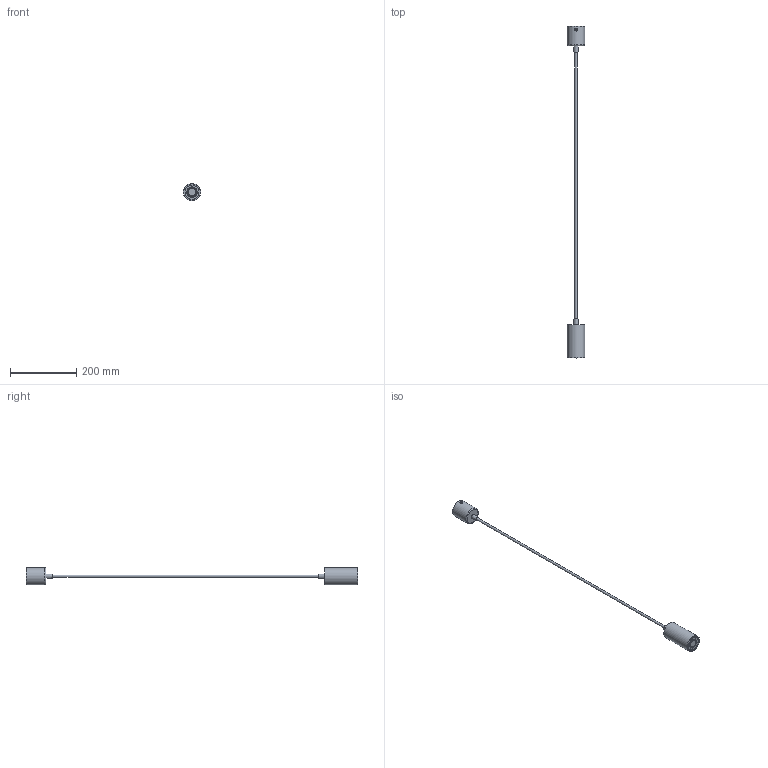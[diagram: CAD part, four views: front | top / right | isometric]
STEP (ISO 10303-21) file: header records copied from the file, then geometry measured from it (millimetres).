
FILE_DESCRIPTION(/* description */ (''),/* implementation_level */ '2;1');
FILE_NAME(/* name */ 'C:/Users/kubaw/OneDrive/Pulpit/Nowy folder/4425_LOGAN v5/4425_LOGAN v5.step',/* time_stamp */ '2021-03-13T10:27:43+01:00',/* author */ (''),/* organization */ (''),/* preprocessor_version */ 'ST-DEVELOPER v18.1',/* originating_system */ 'Autodesk Translation Framework v9.10.0.1330',/* authorisation */ '');
FILE_SCHEMA (('AUTOMOTIVE_DESIGN { 1 0 10303 214 3 1 1 }'));
Length unit declared in the file: millimetre
Products named in the file (5): 4425_LOGAN; Component1; Halogen (LOGAN); Component2; ŚRUBA LOGAN
Assembly tree (4 placements, depth 3):
  4425_LOGAN
    Component1
      Halogen (LOGAN)
    Component2
      ŚRUBA LOGAN
Bounding box: 52 x 1000 x 53.2 mm (x, y, z)
Volume: 386376.8 mm3; surface area: 61444.6 mm2
Topology: 8 solids, 8 shells, 61 faces, 113 edges, 75 vertices
Faces by surface type: plane 35, cylinder 14, torus 7, cone 4, bspline 1
Full cylindrical faces by diameter (mm): 7 x1, 8 x1, 23 x1, 28 x2, 32 x1, 42 x1, 50 x1, 52 x2
Entity records: 1763 total; most frequent: CARTESIAN_POINT 349, DIRECTION 300, ORIENTED_EDGE 226, AXIS2_PLACEMENT_3D 129, EDGE_CURVE 113, VERTEX_POINT 75, EDGE_LOOP 68, FACE_OUTER_BOUND 61
